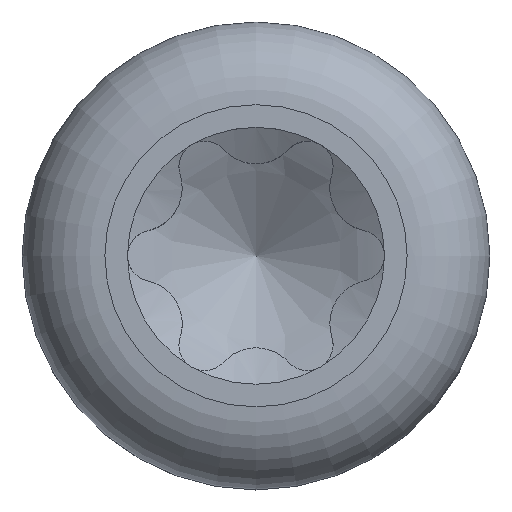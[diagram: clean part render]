
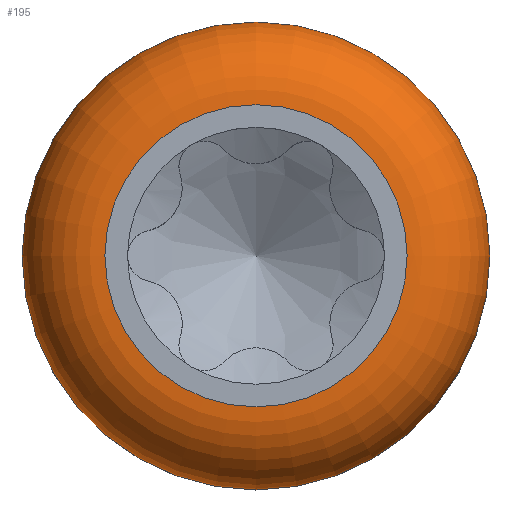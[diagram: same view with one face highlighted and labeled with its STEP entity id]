
A CAD part, top view. The second image highlights one B-rep face of the part: STEP entity #195.
In plain terms, the highlighted toroidal (fillet/blend) face has major radius 1.97 mm and minor radius 1.08 mm.
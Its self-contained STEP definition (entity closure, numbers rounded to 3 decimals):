
#155=TOROIDAL_SURFACE('',#1045,1.97,1.08);
#166=FACE_BOUND('',#337,.T.);
#167=FACE_BOUND('',#338,.T.);
#195=ADVANCED_FACE('',(#166,#167),#155,.T.);
#337=EDGE_LOOP('',(#461));
#338=EDGE_LOOP('',(#462));
#409=CIRCLE('',#1042,3.05);
#410=CIRCLE('',#1044,1.97);
#461=ORIENTED_EDGE('',*,*,#834,.F.);
#462=ORIENTED_EDGE('',*,*,#833,.T.);
#739=VERTEX_POINT('',#2021);
#740=VERTEX_POINT('',#2024);
#833=EDGE_CURVE('',#739,#739,#409,.T.);
#834=EDGE_CURVE('',#740,#740,#410,.T.);
#1042=AXIS2_PLACEMENT_3D('',#2020,#1110,#1111);
#1044=AXIS2_PLACEMENT_3D('',#2023,#1114,#1115);
#1045=AXIS2_PLACEMENT_3D('',#2025,#1116,#1117);
#1110=DIRECTION('',(0.,0.,1.));
#1111=DIRECTION('',(1.,0.,0.));
#1114=DIRECTION('',(0.,0.,1.));
#1115=DIRECTION('',(1.,0.,0.));
#1116=DIRECTION('',(0.,0.,1.));
#1117=DIRECTION('',(1.,0.,0.));
#2020=CARTESIAN_POINT('',(0.,0.,1.62));
#2021=CARTESIAN_POINT('',(3.05,0.,1.62));
#2023=CARTESIAN_POINT('',(0.,0.,2.7));
#2024=CARTESIAN_POINT('',(1.97,0.,2.7));
#2025=CARTESIAN_POINT('',(0.,0.,1.62));
